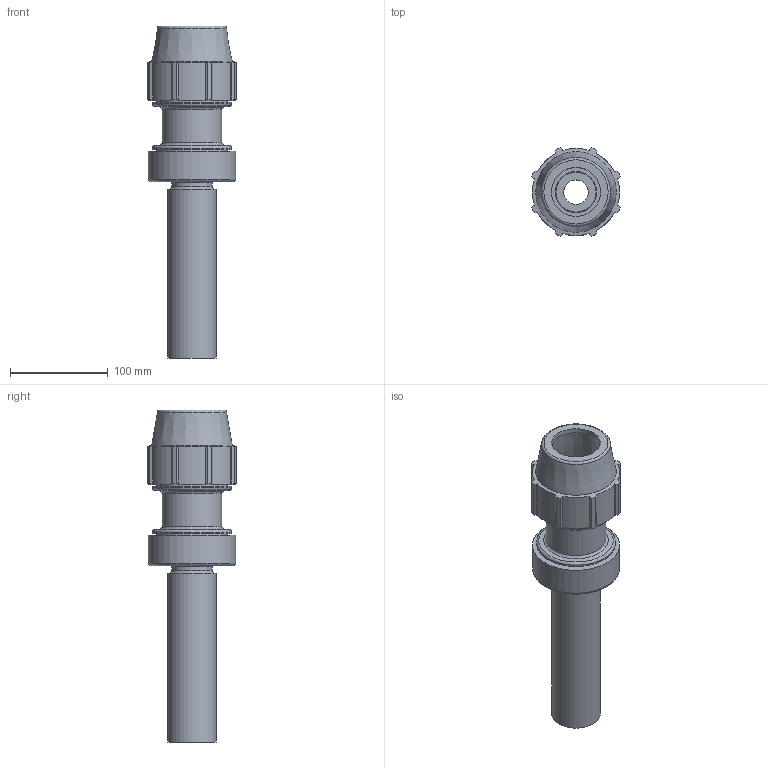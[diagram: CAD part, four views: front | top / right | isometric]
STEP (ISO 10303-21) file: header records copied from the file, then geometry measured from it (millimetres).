
FILE_DESCRIPTION(/* description */ ('Plasson Adjustable Elbow 50 x 50 mm'),/* implementation_level */ '2;1');
FILE_NAME(/* name */ 'C:\Dropbox\KIMPROJECTS-Inventor 2019\99-16-3568-Processing\Mechanical Fittings\07470\074706050.stp',/* time_stamp */ '2023-03-23T11:35:24+02:00',/* author */ ('comp2'),/* organization */ (''),/* preprocessor_version */ 'ST-DEVELOPER v17.2',/* originating_system */ 'Autodesk Inventor 2019',/* authorisation */ '');
FILE_SCHEMA (('AUTOMOTIVE_DESIGN { 1 0 10303 214 3 1 1 }'));
Length unit declared in the file: millimetre
Products named in the file (1): 074706050
Bounding box: 90.33 x 90.33 x 340 mm (x, y, z)
Volume: 692207.9 mm3; surface area: 174598.2 mm2
Topology: 4 solids, 4 shells, 98 faces, 290 edges, 208 vertices
Faces by surface type: plane 48, cylinder 33, cone 9, torus 7, sphere 1
Full cylindrical faces by diameter (mm): 25 x1, 41 x2, 42.5 x1, 50 x4, 55 x1, 61.25 x1, 72.5 x4, 80.875 x2, 89.25 x1
Entity records: 3456 total; most frequent: CARTESIAN_POINT 661, DIRECTION 608, ORIENTED_EDGE 580, EDGE_CURVE 290, AXIS2_PLACEMENT_3D 251, VERTEX_POINT 208, CIRCLE 152, EDGE_LOOP 114
